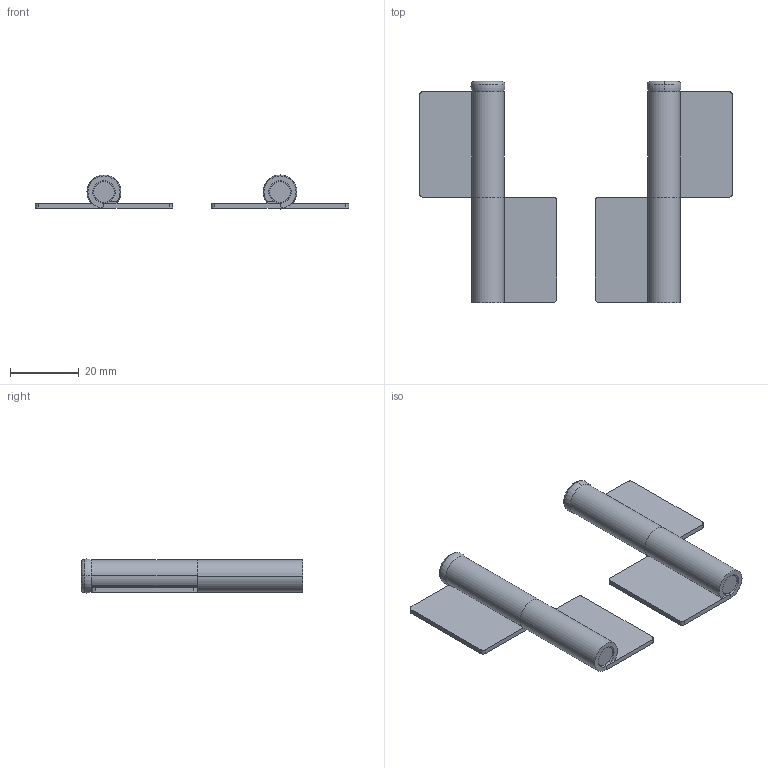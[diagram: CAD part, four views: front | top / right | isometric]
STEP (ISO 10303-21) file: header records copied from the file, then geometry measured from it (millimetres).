
FILE_DESCRIPTION (( 'STEP AP203' ), '1' );
FILE_NAME ('XG02-155-1.STEP', '2025-06-24T02:51:11', ( '微软用户' ), ( '微软中国' ), 'SwSTEP 2.0', 'SolidWorks 2024', '' );
FILE_SCHEMA (( 'CONFIG_CONTROL_DESIGN' ));
Length unit declared in the file: millimetre
Products named in the file (5): XG02-155-1PART2-gan; XG02-155-1L; XG02-155-1PART1; XG02-155-1R; XG02-155-1
Assembly tree (8 placements, depth 3):
  XG02-155-1
    XG02-155-1L
      XG02-155-1PART2-gan
      XG02-155-1PART1  x2
    XG02-155-1R
      XG02-155-1PART2-gan
      XG02-155-1PART1  x2
Bounding box: 91.3 x 64.4 x 9.92 mm (x, y, z)
Volume: 11072.8 mm3; surface area: 13903.9 mm2
Topology: 6 solids, 6 shells, 82 faces, 184 edges, 116 vertices
Faces by surface type: plane 38, cylinder 36, torus 8
Entity records: 1349 total; most frequent: DIRECTION 160, CARTESIAN_POINT 126, ORIENTED_EDGE 108, AXIS2_PLACEMENT_3D 68, EDGE_CURVE 54, PERSON_AND_ORGANIZATION 48, CALENDAR_DATE 41, DATE_AND_TIME 41
